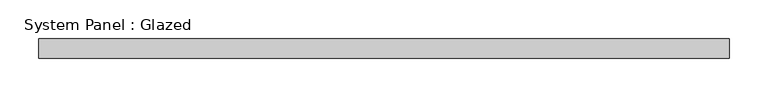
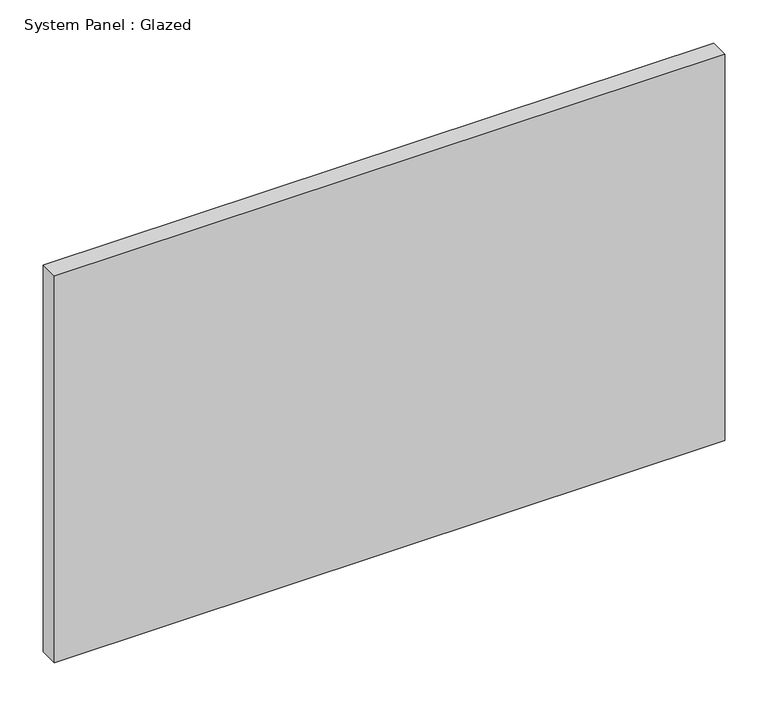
"""IFC4 building model written with IfcOpenShell, lengths in millimetres: plate geometry, System Panel : Glazed."""

import ifcopenshell
import ifcopenshell.guid

model = None  # the IFC model being written
_history = None  # IfcOwnerHistory: only IFC2X3 demands one
_inside = {}  # id of a spatial element -> (the spatial element, [elements in it])
_under = {}  # id of a project, library or spatial element -> (it, [spatial elements below it])
_declared = {}  # id of a project -> (the project, [libraries it declares])
_typed = {}  # id of a type object -> (the type object, [elements of that type])
_made_of = {}  # id of a material, layer set ... -> (it, [elements and type objects made of it])


def new_model(schema):
    """Start an empty IFC model of exactly this schema.

    Asked for "IFC4X3", IfcOpenShell would pick the latest addendum, in which some entities
    have other attributes; the version numbers below select the first issue.
    IFC2X3 requires an IfcOwnerHistory on every rooted entity: one is made here for all.
    """
    global model, _history
    if schema == "IFC4X3":
        model = ifcopenshell.file(schema_version=(4, 3, 0, 0))
    else:
        model = ifcopenshell.file(schema=schema)
    _inside.clear()
    _under.clear()
    _declared.clear()
    _typed.clear()
    _made_of.clear()
    _history = None
    if model.schema == "IFC2X3":
        org = make("IfcOrganization", Name="unknown")
        user = make(
            "IfcPersonAndOrganization",
            ThePerson=make("IfcPerson", FamilyName="unknown"),
            TheOrganization=org,
        )
        app = make(
            "IfcApplication",
            ApplicationDeveloper=org,
            Version="unknown",
            ApplicationFullName="unknown",
            ApplicationIdentifier="unknown",
        )
        _history = make(
            "IfcOwnerHistory",
            OwningUser=user,
            OwningApplication=app,
            ChangeAction="ADDED",
            CreationDate=0,
        )
    return model


def make(cls, **values):
    """One entity of the class cls with the attributes given. An attribute that is None is left unset."""
    return model.create_entity(
        cls, **{name: value for name, value in values.items() if value is not None}
    )


def rooted(cls, **values):
    """An entity with a GlobalId (a new one), such as an element, a storey or a relation."""
    return make(cls, GlobalId=ifcopenshell.guid.new(), OwnerHistory=_history, **values)


def si_unit(unit_type, name, prefix=None):
    """IfcSIUnit, for example si_unit("LENGTHUNIT", "METRE", prefix="MILLI")."""
    return make("IfcSIUnit", UnitType=unit_type, Prefix=prefix, Name=name)


def assignment(units):
    """IfcUnitAssignment: the units of a project."""
    return None if units is None else make("IfcUnitAssignment", Units=units)


def point(xyz):
    """IfcCartesianPoint."""
    return None if xyz is None else make("IfcCartesianPoint", Coordinates=xyz)


def direction(xyz):
    """IfcDirection."""
    return None if xyz is None else make("IfcDirection", DirectionRatios=xyz)


def frame(location, z_axis=None, x_axis=None):
    """IfcAxis2Placement3D, a coordinate frame: its origin and axes. An axis left out is left unset."""
    return make(
        "IfcAxis2Placement3D",
        Location=point(location),
        Axis=direction(z_axis),
        RefDirection=direction(x_axis),
    )


def origin():
    """The frame at (0, 0, 0) with its axes left unset."""
    return frame((0.0, 0.0, 0.0))


def origin_with_axes():
    """The frame at (0, 0, 0) with the z axis (0, 0, 1) and the x axis (1, 0, 0) written out."""
    return frame((0.0, 0.0, 0.0), z_axis=(0.0, 0.0, 1.0), x_axis=(1.0, 0.0, 0.0))


def place(relative_to, where):
    """IfcLocalPlacement: puts the frame where relative to a parent placement (None: the world)."""
    return make(
        "IfcLocalPlacement", PlacementRelTo=relative_to, RelativePlacement=where
    )


def context(
    kind, dimensions, precision=None, world=None, true_north=None, identifier=None
):
    """IfcGeometricRepresentationContext, for example the 3D "Model" context."""
    return make(
        "IfcGeometricRepresentationContext",
        ContextIdentifier=identifier,
        ContextType=kind,
        CoordinateSpaceDimension=dimensions,
        Precision=precision,
        WorldCoordinateSystem=world,
        TrueNorth=true_north,
    )


def project(units=None, contexts=None):
    """IfcProject with its units and contexts."""
    return rooted(
        "IfcProject",
        Name="project",
        RepresentationContexts=contexts,
        UnitsInContext=assignment(units),
    )


def spatial(cls, under=None, at=None, **own):
    """A site, building, storey or space (cls), placed at a placement, below another one or the project."""
    s = rooted(cls, ObjectPlacement=at, **own)
    if under is not None:
        _under.setdefault(under.id(), (under, []))[1].append(s)
    return s


def polyline(points):
    """IfcPolyline through the points."""
    return make("IfcPolyline", Points=[point(p) for p in points])


def outline(outer, holes=None, kind="AREA"):
    """IfcArbitraryClosedProfileDef: a profile drawn as a closed curve; with holes, ...WithVoids."""
    if holes is None:
        return make("IfcArbitraryClosedProfileDef", ProfileType=kind, OuterCurve=outer)
    return make(
        "IfcArbitraryProfileDefWithVoids",
        ProfileType=kind,
        OuterCurve=outer,
        InnerCurves=holes,
    )


def extrude(swept, where, along, depth):
    """IfcExtrudedAreaSolid: the profile swept, set in the frame where, extruded along a direction by depth."""
    return make(
        "IfcExtrudedAreaSolid",
        SweptArea=swept,
        Position=where,
        ExtrudedDirection=direction(along),
        Depth=depth,
    )


def shape(context_of_items, identifier, shape_type, items):
    """IfcShapeRepresentation: the items that make up one representation, for example the "Body"."""
    return make(
        "IfcShapeRepresentation",
        ContextOfItems=context_of_items,
        RepresentationIdentifier=identifier,
        RepresentationType=shape_type,
        Items=items,
    )


def source(mapping_origin, context_of_items, identifier, shape_type, items):
    """IfcRepresentationMap: a shape defined once, which mapped items show again and again."""
    return make(
        "IfcRepresentationMap",
        MappingOrigin=mapping_origin,
        MappedRepresentation=shape(context_of_items, identifier, shape_type, items),
    )


def transform(
    local_origin,
    x_axis=None,
    y_axis=None,
    z_axis=None,
    scale=None,
    scale2=None,
    scale3=None,
    uniform=True,
):
    """IfcCartesianTransformationOperator3D, or its non-uniform kind. x_axis, y_axis, z_axis: its Axis1, 2, 3."""
    if uniform:
        return make(
            "IfcCartesianTransformationOperator3D",
            Axis1=direction(x_axis),
            Axis2=direction(y_axis),
            LocalOrigin=point(local_origin),
            Scale=scale,
            Axis3=direction(z_axis),
        )
    return make(
        "IfcCartesianTransformationOperator3DnonUniform",
        Axis1=direction(x_axis),
        Axis2=direction(y_axis),
        LocalOrigin=point(local_origin),
        Scale=scale,
        Axis3=direction(z_axis),
        Scale2=scale2,
        Scale3=scale3,
    )


def mapped(mapping_source, mapping_target):
    """IfcMappedItem: shows the shape of a source again, moved by a transform."""
    return make(
        "IfcMappedItem", MappingSource=mapping_source, MappingTarget=mapping_target
    )


def made_of(thing, what):
    """Note that an element or type object is made of a material, layer set ...; save() writes the relation."""
    if what is not None:
        _made_of.setdefault(what.id(), (what, []))[1].append(thing)
    return thing


def element(
    cls,
    number,
    at=None,
    inside=None,
    cuts=None,
    type_object=None,
    material=None,
    context=None,
    identifier="Body",
    shape_type=None,
    held_by="IfcProductDefinitionShape",
    body=None,
    shapes=None,
    **own,
):
    """One element of the class cls, such as IfcWall. Its Tag is "e" and its number.

    at: its placement. inside: the storey or other place that contains it. cuts: it is an
    opening in that element (IfcRelVoidsElement). A single representation is given by context,
    identifier, shape_type and body (its items); several are given by shapes. held_by: the class
    of the entity that holds the representations. save() writes the other relations.
    """
    e = rooted(cls, Tag="e%d" % number, ObjectPlacement=at, **own)
    if body is not None:
        shapes = [shape(context, identifier, shape_type, body)]
    if shapes is not None:
        e.Representation = make(held_by, Representations=shapes)
    if inside is not None:
        _inside.setdefault(inside.id(), (inside, []))[1].append(e)
    if cuts is not None:
        rooted(
            "IfcRelVoidsElement", RelatingBuildingElement=cuts, RelatedOpeningElement=e
        )
    if type_object is not None:
        _typed.setdefault(type_object.id(), (type_object, []))[1].append(e)
    return made_of(e, material)


def aggregate(whole, parts):
    """IfcRelAggregates: a whole, such as a stair, and the parts it consists of."""
    return rooted("IfcRelAggregates", RelatingObject=whole, RelatedObjects=parts)


def save(model, path):
    """Write the relations noted so far, then the file.

    IfcRelAggregates (storeys below a building ...), IfcRelContainedInSpatialStructure (elements
    in a storey), IfcRelDefinesByType, IfcRelAssociatesMaterial and IfcRelDeclares: one each for
    every whole, place, type object, material and project.
    """
    for whole, parts in _under.values():
        aggregate(whole, parts)
    for where, things in _inside.values():
        rooted(
            "IfcRelContainedInSpatialStructure",
            RelatedElements=things,
            RelatingStructure=where,
        )
    for kind, things in _typed.values():
        rooted("IfcRelDefinesByType", RelatedObjects=things, RelatingType=kind)
    for what, things in _made_of.values():
        rooted("IfcRelAssociatesMaterial", RelatedObjects=things, RelatingMaterial=what)
    for by, libraries in _declared.values():
        rooted("IfcRelDeclares", RelatingContext=by, RelatedDefinitions=libraries)
    model.write(path)


def system_panel_glazed_4cf37795(model_context):
    return source(origin(), model_context, "Body", "SweptSolid", [
        extrude(outline(polyline([(447.675, 19.05), (-447.675, 19.05), (-447.675, 44.45), (447.675, 44.45), (447.675, 19.05)])), origin_with_axes(), (0.0, 0.0, 1.0), 546.1),
    ])


if __name__ == "__main__":
    model = new_model("IFC4")
    model_context = context("Model", 3, world=origin())
    ifc_project = project(units=[si_unit("LENGTHUNIT", "METRE", prefix="MILLI")], contexts=[model_context])
    site = spatial("IfcSite", under=ifc_project)
    building = spatial("IfcBuilding", under=site)
    placement = place(None, origin())
    system_panel_glazed_shape = system_panel_glazed_4cf37795(model_context)
    element("IfcPlate", 1, ObjectType="System Panel : Glazed", at=placement, inside=building, context=model_context, shape_type="MappedRepresentation", body=[
        mapped(system_panel_glazed_shape, transform((0.0, 0.0, 0.0), x_axis=(1.0, 0.0, 0.0), y_axis=(0.0, 1.0, 0.0), z_axis=(0.0, 0.0, 1.0))),
    ])
    save(model, "model.ifc")
